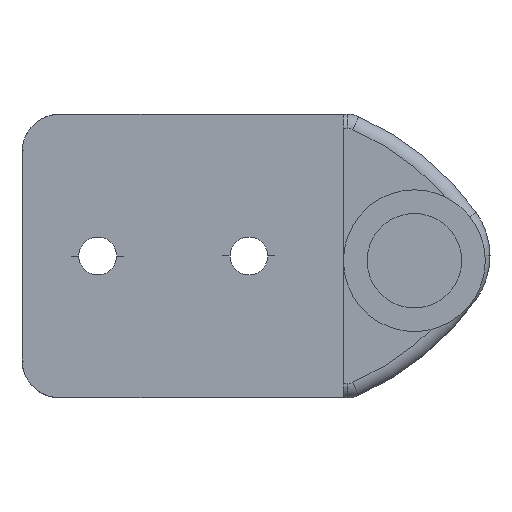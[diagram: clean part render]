
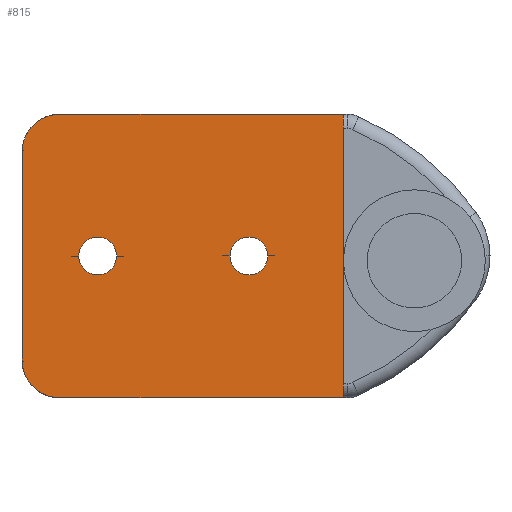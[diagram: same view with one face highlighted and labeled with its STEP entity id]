
A CAD part, front view. The second image highlights one B-rep face of the part: STEP entity #815.
In plain terms, the highlighted planar face has unit normal (0, -1, 0).
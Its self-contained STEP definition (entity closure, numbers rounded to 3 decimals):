
#28 = VECTOR ( 'NONE', #3359, 1000. ) ;
#29 = LINE ( 'NONE', #3316, #28 ) ;
#37 = CIRCLE ( 'NONE', #894, 4. ) ;
#42 = VECTOR ( 'NONE', #4281, 1000. ) ;
#43 = LINE ( 'NONE', #4472, #42 ) ;
#52 = CIRCLE ( 'NONE', #917, 4. ) ;
#56 = VECTOR ( 'NONE', #3228, 1000. ) ;
#57 = LINE ( 'NONE', #3229, #56 ) ;
#201 = FACE_OUTER_BOUND ( 'NONE', #271, .T. ) ;
#202 = FACE_BOUND ( 'NONE', #341, .T. ) ;
#203 = FACE_BOUND ( 'NONE', #336, .T. ) ;
#268 = VECTOR ( 'NONE', #4428, 1000. ) ;
#271 = EDGE_LOOP ( 'NONE', ( #545, #546, #547, #548, #549, #550 ) ) ;
#294 = CIRCLE ( 'NONE', #1097, 2. ) ;
#328 = LINE ( 'NONE', #4444, #268 ) ;
#331 = CIRCLE ( 'NONE', #1076, 2. ) ;
#336 = EDGE_LOOP ( 'NONE', ( #541, #542 ) ) ;
#341 = EDGE_LOOP ( 'NONE', ( #543, #544 ) ) ;
#541 = ORIENTED_EDGE ( 'NONE', *, *, #1251, .F. ) ;
#542 = ORIENTED_EDGE ( 'NONE', *, *, #1167, .F. ) ;
#543 = ORIENTED_EDGE ( 'NONE', *, *, #1196, .F. ) ;
#544 = ORIENTED_EDGE ( 'NONE', *, *, #1168, .F. ) ;
#545 = ORIENTED_EDGE ( 'NONE', *, *, #1064, .T. ) ;
#546 = ORIENTED_EDGE ( 'NONE', *, *, #1071, .T. ) ;
#547 = ORIENTED_EDGE ( 'NONE', *, *, #1091, .T. ) ;
#548 = ORIENTED_EDGE ( 'NONE', *, *, #1104, .T. ) ;
#549 = ORIENTED_EDGE ( 'NONE', *, *, #1116, .T. ) ;
#550 = ORIENTED_EDGE ( 'NONE', *, *, #1166, .T. ) ;
#815 = ADVANCED_FACE ( 'NONE', ( #203, #202, #201 ), #2484, .T. ) ;
#894 = AXIS2_PLACEMENT_3D ( 'NONE', #4311, #4239, #4194 ) ;
#917 = AXIS2_PLACEMENT_3D ( 'NONE', #4204, #4258, #4254 ) ;
#938 = AXIS2_PLACEMENT_3D ( 'NONE', #3446, #3479, #3514 ) ;
#972 = AXIS2_PLACEMENT_3D ( 'NONE', #2674, #2673, #2672 ) ;
#981 = AXIS2_PLACEMENT_3D ( 'NONE', #3091, #3090, #3089 ) ;
#1064 = EDGE_CURVE ( 'NONE', #2804, #2786, #57, .T. ) ;
#1071 = EDGE_CURVE ( 'NONE', #2786, #2787, #52, .T. ) ;
#1076 = AXIS2_PLACEMENT_3D ( 'NONE', #4485, #4427, #4551 ) ;
#1091 = EDGE_CURVE ( 'NONE', #2787, #2806, #43, .T. ) ;
#1097 = AXIS2_PLACEMENT_3D ( 'NONE', #4286, #4144, #4146 ) ;
#1104 = EDGE_CURVE ( 'NONE', #2806, #2783, #37, .T. ) ;
#1116 = EDGE_CURVE ( 'NONE', #2783, #2731, #29, .T. ) ;
#1166 = EDGE_CURVE ( 'NONE', #2731, #2804, #328, .T. ) ;
#1167 = EDGE_CURVE ( 'NONE', #2793, #2761, #331, .T. ) ;
#1168 = EDGE_CURVE ( 'NONE', #2704, #2701, #294, .T. ) ;
#1196 = EDGE_CURVE ( 'NONE', #2701, #2704, #1383, .T. ) ;
#1251 = EDGE_CURVE ( 'NONE', #2761, #2793, #1324, .T. ) ;
#1324 = CIRCLE ( 'NONE', #981, 2. ) ;
#1383 = CIRCLE ( 'NONE', #938, 2. ) ;
#2484 = PLANE ( 'NONE',  #972 ) ;
#2672 = DIRECTION ( 'NONE',  ( 1., 0., 0. ) ) ;
#2673 = DIRECTION ( 'NONE',  ( 0., -1., 0. ) ) ;
#2674 = CARTESIAN_POINT ( 'NONE',  ( -37.5, 297., -10.5 ) ) ;
#2701 = VERTEX_POINT ( 'NONE', #3020 ) ;
#2704 = VERTEX_POINT ( 'NONE', #3017 ) ;
#2731 = VERTEX_POINT ( 'NONE', #2994 ) ;
#2761 = VERTEX_POINT ( 'NONE', #2964 ) ;
#2783 = VERTEX_POINT ( 'NONE', #2942 ) ;
#2786 = VERTEX_POINT ( 'NONE', #2939 ) ;
#2787 = VERTEX_POINT ( 'NONE', #2938 ) ;
#2793 = VERTEX_POINT ( 'NONE', #2932 ) ;
#2804 = VERTEX_POINT ( 'NONE', #2921 ) ;
#2806 = VERTEX_POINT ( 'NONE', #2919 ) ;
#2919 = CARTESIAN_POINT ( 'NONE',  ( -41.5, 297., -10.5 ) ) ;
#2921 = CARTESIAN_POINT ( 'NONE',  ( -7.5, 297., 15.5 ) ) ;
#2932 = CARTESIAN_POINT ( 'NONE',  ( -15.5, 297., 0.5 ) ) ;
#2938 = CARTESIAN_POINT ( 'NONE',  ( -41.5, 297., 11.5 ) ) ;
#2939 = CARTESIAN_POINT ( 'NONE',  ( -37.5, 297., 15.5 ) ) ;
#2942 = CARTESIAN_POINT ( 'NONE',  ( -37.5, 297., -14.5 ) ) ;
#2964 = CARTESIAN_POINT ( 'NONE',  ( -19.5, 297., 0.5 ) ) ;
#2994 = CARTESIAN_POINT ( 'NONE',  ( -7.5, 297., -14.5 ) ) ;
#3017 = CARTESIAN_POINT ( 'NONE',  ( -31.5, 297., 0.5 ) ) ;
#3020 = CARTESIAN_POINT ( 'NONE',  ( -35.5, 297., 0.5 ) ) ;
#3089 = DIRECTION ( 'NONE',  ( 1., 0., 0. ) ) ;
#3090 = DIRECTION ( 'NONE',  ( 0., -1., 0. ) ) ;
#3091 = CARTESIAN_POINT ( 'NONE',  ( -17.5, 297., 0.5 ) ) ;
#3228 = DIRECTION ( 'NONE',  ( -1., 0., 0. ) ) ;
#3229 = CARTESIAN_POINT ( 'NONE',  ( -37.5, 297., 15.5 ) ) ;
#3316 = CARTESIAN_POINT ( 'NONE',  ( -7.5, 297., -14.5 ) ) ;
#3359 = DIRECTION ( 'NONE',  ( 1., 0., 0. ) ) ;
#3446 = CARTESIAN_POINT ( 'NONE',  ( -33.5, 297., 0.5 ) ) ;
#3479 = DIRECTION ( 'NONE',  ( 0., -1., 0. ) ) ;
#3514 = DIRECTION ( 'NONE',  ( 1., 0., 0. ) ) ;
#4144 = DIRECTION ( 'NONE',  ( 0., -1., 0. ) ) ;
#4146 = DIRECTION ( 'NONE',  ( 1., 0., 0. ) ) ;
#4194 = DIRECTION ( 'NONE',  ( 1., 0., 0. ) ) ;
#4204 = CARTESIAN_POINT ( 'NONE',  ( -37.5, 297., 11.5 ) ) ;
#4239 = DIRECTION ( 'NONE',  ( 0., -1., 0. ) ) ;
#4254 = DIRECTION ( 'NONE',  ( 1., 0., 0. ) ) ;
#4258 = DIRECTION ( 'NONE',  ( 0., -1., 0. ) ) ;
#4281 = DIRECTION ( 'NONE',  ( 0., 0., -1. ) ) ;
#4286 = CARTESIAN_POINT ( 'NONE',  ( -33.5, 297., 0.5 ) ) ;
#4311 = CARTESIAN_POINT ( 'NONE',  ( -37.5, 297., -10.5 ) ) ;
#4427 = DIRECTION ( 'NONE',  ( 0., -1., 0. ) ) ;
#4428 = DIRECTION ( 'NONE',  ( 0., 0., 1. ) ) ;
#4444 = CARTESIAN_POINT ( 'NONE',  ( -7.5, 297., 15.5 ) ) ;
#4472 = CARTESIAN_POINT ( 'NONE',  ( -41.5, 297., -10.5 ) ) ;
#4485 = CARTESIAN_POINT ( 'NONE',  ( -17.5, 297., 0.5 ) ) ;
#4551 = DIRECTION ( 'NONE',  ( 1., 0., 0. ) ) ;
